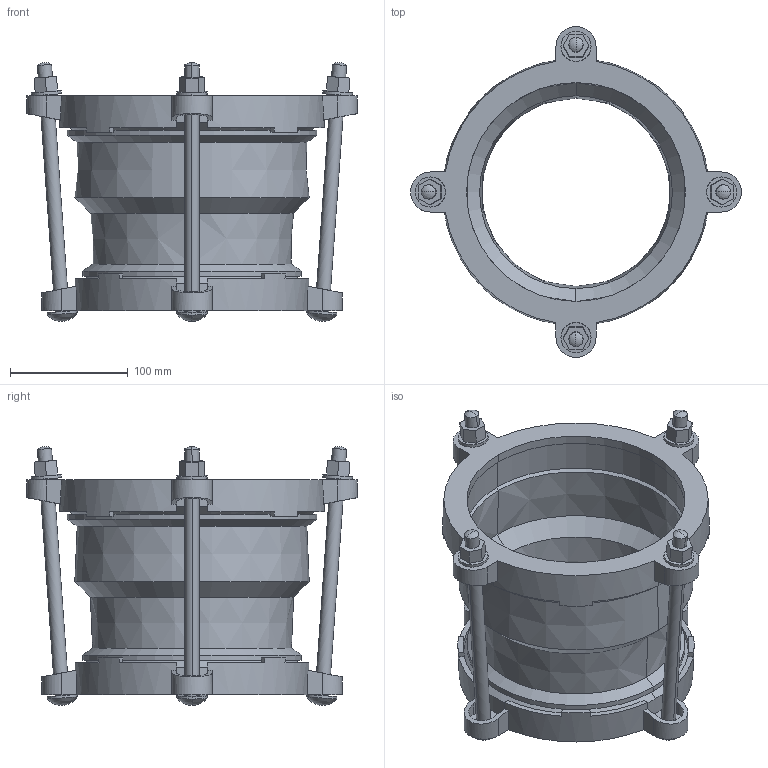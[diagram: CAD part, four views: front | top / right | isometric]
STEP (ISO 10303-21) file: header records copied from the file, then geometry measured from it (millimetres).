
FILE_DESCRIPTION((''),'2;1');
FILE_NAME('BIM_12395_6','2018-10-09T',('MReader'),(''),'CREO PARAMETRIC BY PTC INC, 2016130','CREO PARAMETRIC BY PTC INC, 2016130','');
FILE_SCHEMA(('CONFIG_CONTROL_DESIGN'));
Length unit declared in the file: millimetre
Products named in the file (1): BIM_12395_6
Bounding box: 280.5 x 280.5 x 219.44 mm (x, y, z)
Volume: 1163864.6 mm3; surface area: 359437.8 mm2
Topology: 2 solids, 2 shells, 282 faces, 732 edges, 460 vertices
Faces by surface type: plane 122, cylinder 84, cone 60, sphere 16
Entity records: 9171 total; most frequent: CARTESIAN_POINT 2369, ORIENTED_EDGE 1432, DIRECTION 1380, EDGE_CURVE 716, AXIS2_PLACEMENT_3D 526, VERTEX_POINT 460, VECTOR 328, LINE 328
